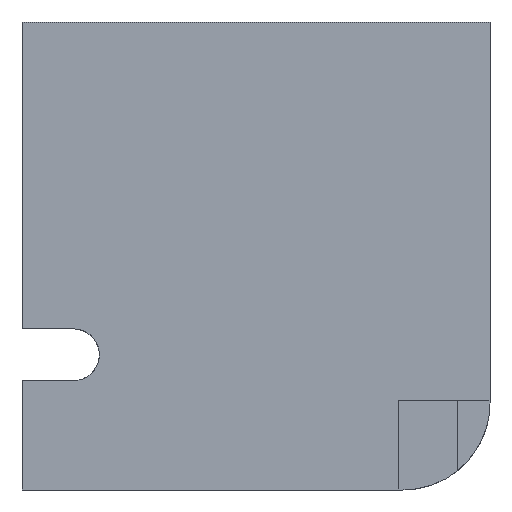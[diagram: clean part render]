
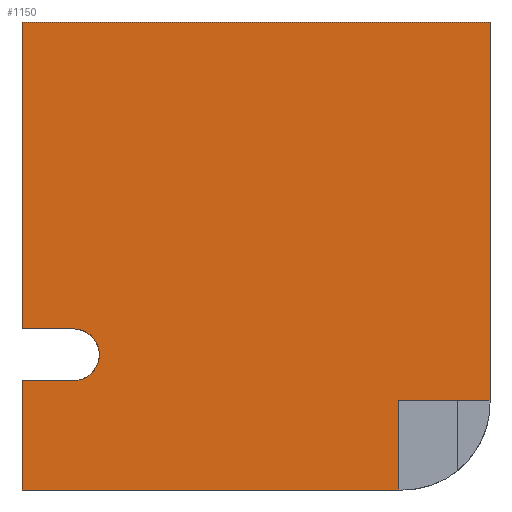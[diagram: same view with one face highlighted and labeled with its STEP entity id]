
A CAD part, left-side view. The second image highlights one B-rep face of the part: STEP entity #1150.
In plain terms, the highlighted planar face has unit normal (-1, 0, 0).
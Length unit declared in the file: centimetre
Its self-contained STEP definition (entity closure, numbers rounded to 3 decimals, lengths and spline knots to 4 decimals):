
#22 = VECTOR ( 'NONE', #278, 100. ) ;
#23 = CARTESIAN_POINT ( 'NONE',  ( 0., 1000., 1000. ) ) ;
#69 = DIRECTION ( 'NONE',  ( 0., 0., -1. ) ) ;
#71 = ORIENTED_EDGE ( 'NONE', *, *, #1186, .F. ) ;
#81 = DIRECTION ( 'NONE',  ( 0., 0., -1. ) ) ;
#98 = ORIENTED_EDGE ( 'NONE', *, *, #181, .F. ) ;
#104 = LINE ( 'NONE', #112, #438 ) ;
#112 = CARTESIAN_POINT ( 'NONE',  ( 0., 1000., 1000. ) ) ;
#113 = VERTEX_POINT ( 'NONE', #380 ) ;
#116 = CARTESIAN_POINT ( 'NONE',  ( 0., 1000., 0. ) ) ;
#137 = DIRECTION ( 'NONE',  ( 0., 0., -1. ) ) ;
#173 = CIRCLE ( 'NONE', #233, 55.2927 ) ;
#181 = EDGE_CURVE ( 'NONE', #1245, #113, #852, .T. ) ;
#191 = VECTOR ( 'NONE', #137, 100. ) ;
#196 = EDGE_CURVE ( 'NONE', #618, #1166, #173, .T. ) ;
#211 = VERTEX_POINT ( 'NONE', #116 ) ;
#233 = AXIS2_PLACEMENT_3D ( 'NONE', #1243, #1052, #297 ) ;
#255 = VECTOR ( 'NONE', #334, 100. ) ;
#276 = DIRECTION ( 'NONE',  ( 0., -1., 0. ) ) ;
#278 = DIRECTION ( 'NONE',  ( 0., 1., 0. ) ) ;
#297 = DIRECTION ( 'NONE',  ( 0., 0., -1. ) ) ;
#300 = CARTESIAN_POINT ( 'NONE',  ( 0., 195.1049, 191.6927 ) ) ;
#307 = CARTESIAN_POINT ( 'NONE',  ( 0., 1000., 344.2687 ) ) ;
#327 = CARTESIAN_POINT ( 'NONE',  ( 0., 0., 191.6927 ) ) ;
#334 = DIRECTION ( 'NONE',  ( 0., -1., 0. ) ) ;
#337 = EDGE_CURVE ( 'NONE', #1166, #444, #468, .T. ) ;
#347 = ORIENTED_EDGE ( 'NONE', *, *, #371, .T. ) ;
#360 = CARTESIAN_POINT ( 'NONE',  ( 0., 195.1049, 0. ) ) ;
#370 = CARTESIAN_POINT ( 'NONE',  ( 0., 1000., 344.2687 ) ) ;
#371 = EDGE_CURVE ( 'NONE', #992, #444, #413, .T. ) ;
#380 = CARTESIAN_POINT ( 'NONE',  ( 0., 195.1049, 0. ) ) ;
#382 = CARTESIAN_POINT ( 'NONE',  ( 0., 890.0913, 344.2687 ) ) ;
#393 = CARTESIAN_POINT ( 'NONE',  ( 0., 1000., 1000. ) ) ;
#413 = LINE ( 'NONE', #1089, #191 ) ;
#433 = VERTEX_POINT ( 'NONE', #327 ) ;
#438 = VECTOR ( 'NONE', #975, 100. ) ;
#444 = VERTEX_POINT ( 'NONE', #307 ) ;
#453 = LINE ( 'NONE', #531, #255 ) ;
#459 = ORIENTED_EDGE ( 'NONE', *, *, #196, .F. ) ;
#467 = EDGE_LOOP ( 'NONE', ( #98, #674, #1010, #71, #347, #960, #459, #1219, #983, #524 ) ) ;
#468 = LINE ( 'NONE', #370, #22 ) ;
#524 = ORIENTED_EDGE ( 'NONE', *, *, #666, .T. ) ;
#531 = CARTESIAN_POINT ( 'NONE',  ( 0., 1000., 0. ) ) ;
#560 = CARTESIAN_POINT ( 'NONE',  ( 0., 890.0913, 233.6832 ) ) ;
#618 = VERTEX_POINT ( 'NONE', #1223 ) ;
#622 = VERTEX_POINT ( 'NONE', #934 ) ;
#647 = LINE ( 'NONE', #560, #1172 ) ;
#655 = CARTESIAN_POINT ( 'NONE',  ( 0., 1000., 1000. ) ) ;
#666 = EDGE_CURVE ( 'NONE', #211, #113, #453, .T. ) ;
#672 = VECTOR ( 'NONE', #69, 100. ) ;
#674 = ORIENTED_EDGE ( 'NONE', *, *, #952, .T. ) ;
#678 = DIRECTION ( 'NONE',  ( 0., -1., 0. ) ) ;
#681 = DIRECTION ( 'NONE',  ( 1., 0., 0. ) ) ;
#686 = LINE ( 'NONE', #300, #990 ) ;
#694 = EDGE_CURVE ( 'NONE', #622, #618, #647, .T. ) ;
#707 = FACE_OUTER_BOUND ( 'NONE', #467, .T. ) ;
#730 = CARTESIAN_POINT ( 'NONE',  ( 0., 0., 1000. ) ) ;
#827 = CARTESIAN_POINT ( 'NONE',  ( 0., 0., 1000. ) ) ;
#852 = LINE ( 'NONE', #360, #1167 ) ;
#865 = EDGE_CURVE ( 'NONE', #895, #433, #1022, .T. ) ;
#868 = AXIS2_PLACEMENT_3D ( 'NONE', #393, #681, #1076 ) ;
#882 = PLANE ( 'NONE',  #868 ) ;
#892 = LINE ( 'NONE', #655, #949 ) ;
#895 = VERTEX_POINT ( 'NONE', #827 ) ;
#934 = CARTESIAN_POINT ( 'NONE',  ( 0., 1000., 233.6832 ) ) ;
#949 = VECTOR ( 'NONE', #276, 100. ) ;
#952 = EDGE_CURVE ( 'NONE', #1245, #433, #686, .T. ) ;
#954 = DIRECTION ( 'NONE',  ( 0., -1., 0. ) ) ;
#960 = ORIENTED_EDGE ( 'NONE', *, *, #337, .F. ) ;
#964 = EDGE_CURVE ( 'NONE', #622, #211, #104, .T. ) ;
#975 = DIRECTION ( 'NONE',  ( 0., 0., -1. ) ) ;
#983 = ORIENTED_EDGE ( 'NONE', *, *, #964, .T. ) ;
#990 = VECTOR ( 'NONE', #678, 100. ) ;
#992 = VERTEX_POINT ( 'NONE', #23 ) ;
#1010 = ORIENTED_EDGE ( 'NONE', *, *, #865, .F. ) ;
#1022 = LINE ( 'NONE', #730, #672 ) ;
#1052 = DIRECTION ( 'NONE',  ( -1., 0., 0. ) ) ;
#1076 = DIRECTION ( 'NONE',  ( 0., 0., -1. ) ) ;
#1089 = CARTESIAN_POINT ( 'NONE',  ( 0., 1000., 1000. ) ) ;
#1150 = ADVANCED_FACE ( 'NONE', ( #707 ), #882, .F. ) ;
#1156 = CARTESIAN_POINT ( 'NONE',  ( 0., 195.1049, 191.6927 ) ) ;
#1166 = VERTEX_POINT ( 'NONE', #382 ) ;
#1167 = VECTOR ( 'NONE', #81, 100. ) ;
#1172 = VECTOR ( 'NONE', #954, 100. ) ;
#1186 = EDGE_CURVE ( 'NONE', #992, #895, #892, .T. ) ;
#1219 = ORIENTED_EDGE ( 'NONE', *, *, #694, .F. ) ;
#1223 = CARTESIAN_POINT ( 'NONE',  ( 0., 890.0913, 233.6832 ) ) ;
#1243 = CARTESIAN_POINT ( 'NONE',  ( 0., 890.0913, 288.976 ) ) ;
#1245 = VERTEX_POINT ( 'NONE', #1156 ) ;
